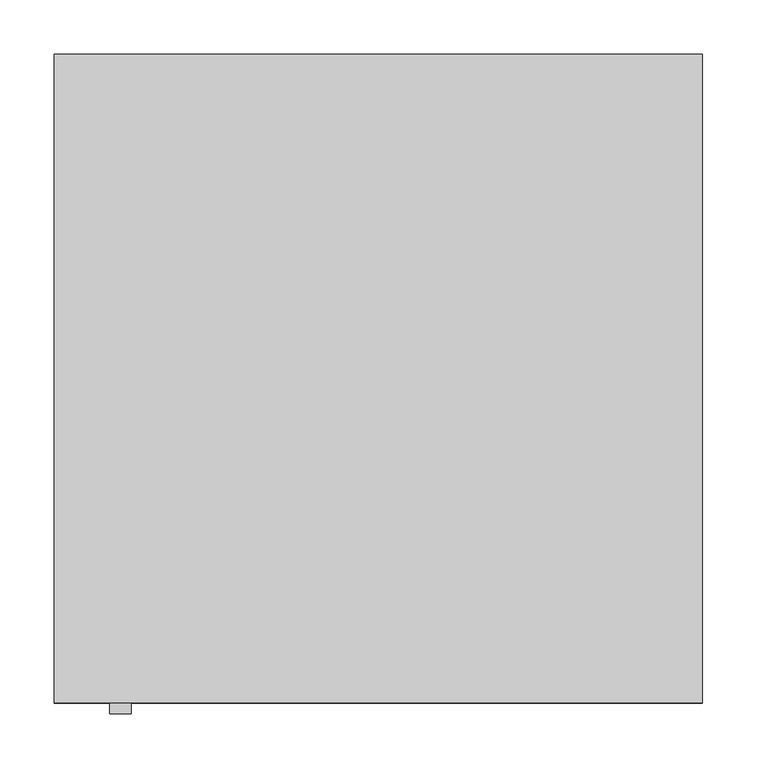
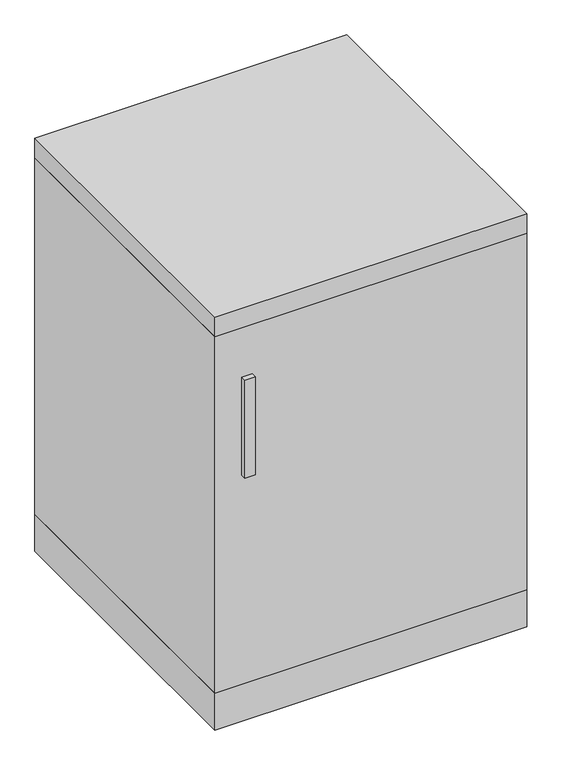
"""IFC4 building model written with IfcOpenShell, lengths in millimetres: proxy geometry, BIMHealth-Fridge-LOD2A-v1 : BIMHealth-Fridge-LOD2A-v1."""

from ifc_helpers import new_model, si_unit, frame, origin, origin_with_axes, place, context, project, spatial, polyline, outline, extrude, source, transform, mapped, element, save


def generic_models_43ed5143(model_context):
    return source(origin(), model_context, "Body", "SweptSolid", [
        extrude(outline(polyline([(71.3708599, -610.0), (51.3708599, -610.0), (51.3708599, -600.0), (71.3708599, -600.0), (71.3708599, -610.0)])), frame((0.0, 0.0, 500.0), z_axis=(0.0, 0.0, 1.0), x_axis=(1.0, 0.0, 0.0)), (0.0, 0.0, 1.0), 200.0),
        extrude(outline(polyline([(600.0, 0.0), (600.0, -600.0), (0.0, -600.0), (0.0, 0.0), (600.0, 0.0)])), frame((0.0, 0.0, 800.0), z_axis=(0.0, 0.0, 1.0), x_axis=(1.0, 0.0, 0.0)), (0.0, 0.0, 1.0), 40.0),
        extrude(outline(polyline([(600.0, 0.0), (600.0, -600.0), (0.0, -600.0), (0.0, 0.0), (600.0, 0.0)])), frame((0.0, 0.0, 75.0), z_axis=(0.0, 0.0, 1.0), x_axis=(1.0, 0.0, 0.0)), (0.0, 0.0, 1.0), 725.0),
        extrude(outline(polyline([(600.0, 0.0), (600.0, -600.0), (0.0, -600.0), (0.0, 0.0), (600.0, 0.0)])), origin_with_axes(), (0.0, 0.0, 1.0), 75.0),
    ])


if __name__ == "__main__":
    model = new_model("IFC4")
    model_context = context("Model", 3, world=origin())
    ifc_project = project(units=[si_unit("LENGTHUNIT", "METRE", prefix="MILLI")], contexts=[model_context])
    site = spatial("IfcSite", under=ifc_project)
    building = spatial("IfcBuilding", under=site)
    placement = place(None, origin())
    generic_models_shape = generic_models_43ed5143(model_context)
    element("IfcBuildingElementProxy", 1, Name="BIMHealth-Fridge-LOD2A-v1 : BIMHealth-Fridge-LOD2A-v1", ObjectType="BIMHealth-Fridge-LOD2A-v1 : BIMHealth-Fridge-LOD2A-v1", at=placement, inside=building, context=model_context, shape_type="MappedRepresentation", body=[
        mapped(generic_models_shape, transform((0.0, 0.0, 0.0), x_axis=(1.0, 0.0, 0.0), y_axis=(0.0, 1.0, 0.0), z_axis=(0.0, 0.0, 1.0))),
    ])
    save(model, "model.ifc")
